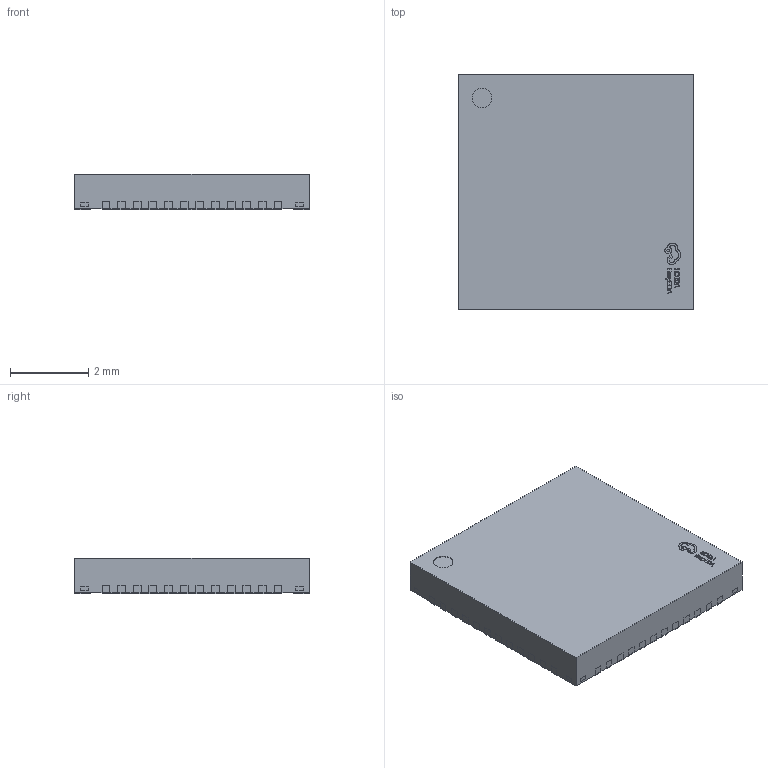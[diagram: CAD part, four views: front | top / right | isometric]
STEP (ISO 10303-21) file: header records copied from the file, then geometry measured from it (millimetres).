
FILE_DESCRIPTION(('FreeCAD Model'),'2;1');
FILE_NAME('Open CASCADE Shape Model','2023-03-22T08:59:51',('Author'),( ''),'Open CASCADE STEP processor 7.5','FreeCAD','Unknown');
FILE_SCHEMA(('AUTOMOTIVE_DESIGN { 1 0 10303 214 1 1 1 1 }'));
Length unit declared in the file: millimetre
Products named in the file (114): U1; VQFN-48_L6.0-W6.0-P0.40-TL-EP4.4; COMPOUND112; COMPOUND001; COMPOUND002; COMPOUND003; COMPOUND004; COMPOUND005; COMPOUND006; COMPOUND007; COMPOUND008; COMPOUND009; COMPOUND010; COMPOUND011; COMPOUND012; COMPOUND013; COMPOUND014; COMPOUND015; COMPOUND016; COMPOUND017; COMPOUND018; COMPOUND019; COMPOUND020; COMPOUND021; COMPOUND022; COMPOUND023; COMPOUND024; COMPOUND025; COMPOUND026; COMPOUND027; COMPOUND028; COMPOUND029; COMPOUND030; COMPOUND031; COMPOUND032; COMPOUND033; COMPOUND034; COMPOUND035; COMPOUND036; COMPOUND037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
Assembly tree (113 placements, depth 4):
  U1
    VQFN-48_L6.0-W6.0-P0.40-TL-EP4.4
      COMPOUND112
        COMPOUND001
        COMPOUND002
        COMPOUND003
        COMPOUND004
        COMPOUND005
        COMPOUND006
        COMPOUND007
        COMPOUND008
        COMPOUND009
        COMPOUND010
        COMPOUND011
        COMPOUND012
        COMPOUND013
        COMPOUND014
        COMPOUND015
        COMPOUND016
        COMPOUND017
        COMPOUND018
        COMPOUND019
        COMPOUND020
        COMPOUND021
        COMPOUND022
        COMPOUND023
        COMPOUND024
        COMPOUND025
        COMPOUND026
        COMPOUND027
        COMPOUND028
        COMPOUND029
        COMPOUND030
        COMPOUND031
        COMPOUND032
        COMPOUND033
        COMPOUND034
        COMPOUND035
        COMPOUND036
        COMPOUND037
        COMPOUND038
        COMPOUND039
        COMPOUND040
        COMPOUND041
        COMPOUND042
        COMPOUND043
        COMPOUND044
        COMPOUND045
        COMPOUND046
        COMPOUND047
        COMPOUND048
        COMPOUND049
        COMPOUND050
        COMPOUND051
        COMPOUND052
        COMPOUND053
        COMPOUND054
        COMPOUND055
        COMPOUND056
        COMPOUND057
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Bounding box: 6 x 6 x 0.9 mm (x, y, z)
Surface area: 167 mm2
Topology: 111 solids, 111 shells, 1370 faces, 3428 edges, 2296 vertices
Faces by surface type: plane 968, cylinder 290, bspline 112
Entity records: 92787 total; most frequent: CARTESIAN_POINT 19134, DIRECTION 12636, LINE 8440, VECTOR 8440, ORIENTED_EDGE 6856, PCURVE 6856, DEFINITIONAL_REPRESENTATION 6856, EDGE_CURVE 3428
